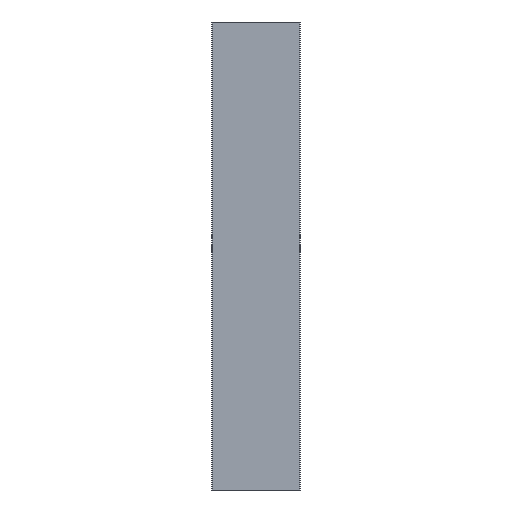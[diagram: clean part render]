
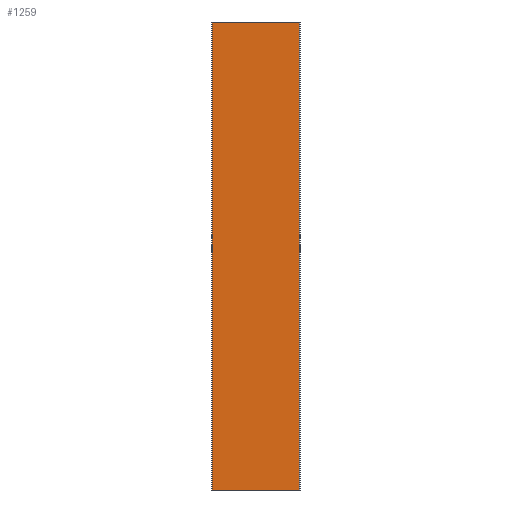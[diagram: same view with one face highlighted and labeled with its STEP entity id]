
A CAD part, left-side view. The second image highlights one B-rep face of the part: STEP entity #1259.
In plain terms, the highlighted planar face has unit normal (-1, 0, 0).
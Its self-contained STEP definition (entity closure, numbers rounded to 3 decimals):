
#91=FACE_OUTER_BOUND('',#156,.T.);
#156=EDGE_LOOP('',(#878,#879,#880,#881));
#237=LINE('',#1810,#386);
#238=LINE('',#1813,#387);
#239=LINE('',#1815,#388);
#240=LINE('',#1816,#389);
#386=VECTOR('',#1427,10.);
#387=VECTOR('',#1430,10.);
#388=VECTOR('',#1431,10.);
#389=VECTOR('',#1432,10.);
#535=VERTEX_POINT('',#1800);
#536=VERTEX_POINT('',#1805);
#537=VERTEX_POINT('',#1812);
#538=VERTEX_POINT('',#1814);
#675=EDGE_CURVE('',#535,#536,#237,.T.);
#676=EDGE_CURVE('',#535,#537,#238,.T.);
#677=EDGE_CURVE('',#538,#536,#239,.T.);
#678=EDGE_CURVE('',#537,#538,#240,.T.);
#878=ORIENTED_EDGE('',*,*,#676,.F.);
#879=ORIENTED_EDGE('',*,*,#675,.T.);
#880=ORIENTED_EDGE('',*,*,#677,.F.);
#881=ORIENTED_EDGE('',*,*,#678,.F.);
#1207=PLANE('',#1333);
#1259=ADVANCED_FACE('',(#91),#1207,.T.);
#1333=AXIS2_PLACEMENT_3D('',#1811,#1428,#1429);
#1427=DIRECTION('',(0.,0.,-1.));
#1428=DIRECTION('center_axis',(-1.,0.,0.));
#1429=DIRECTION('ref_axis',(0.,1.,0.));
#1430=DIRECTION('',(0.,-1.,0.));
#1431=DIRECTION('',(0.,1.,0.));
#1432=DIRECTION('',(0.,0.,-1.));
#1800=CARTESIAN_POINT('',(0.,18.825,0.));
#1805=CARTESIAN_POINT('',(0.,18.825,-100.));
#1810=CARTESIAN_POINT('',(0.,18.825,0.));
#1811=CARTESIAN_POINT('Origin',(0.,0.206,
0.));
#1812=CARTESIAN_POINT('',(0.,0.206,0.));
#1813=CARTESIAN_POINT('',(0.,18.825,0.));
#1814=CARTESIAN_POINT('',(0.,0.206,-100.));
#1815=CARTESIAN_POINT('',(0.,18.825,-100.));
#1816=CARTESIAN_POINT('',(0.,0.206,0.));
